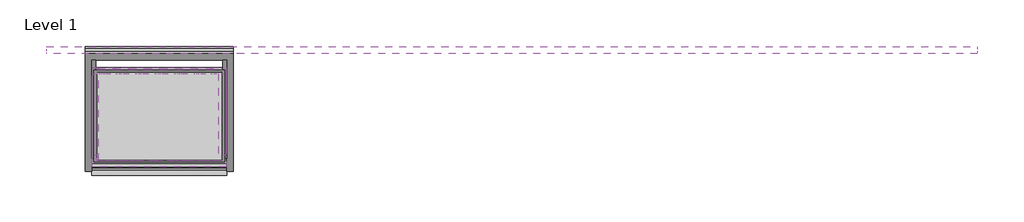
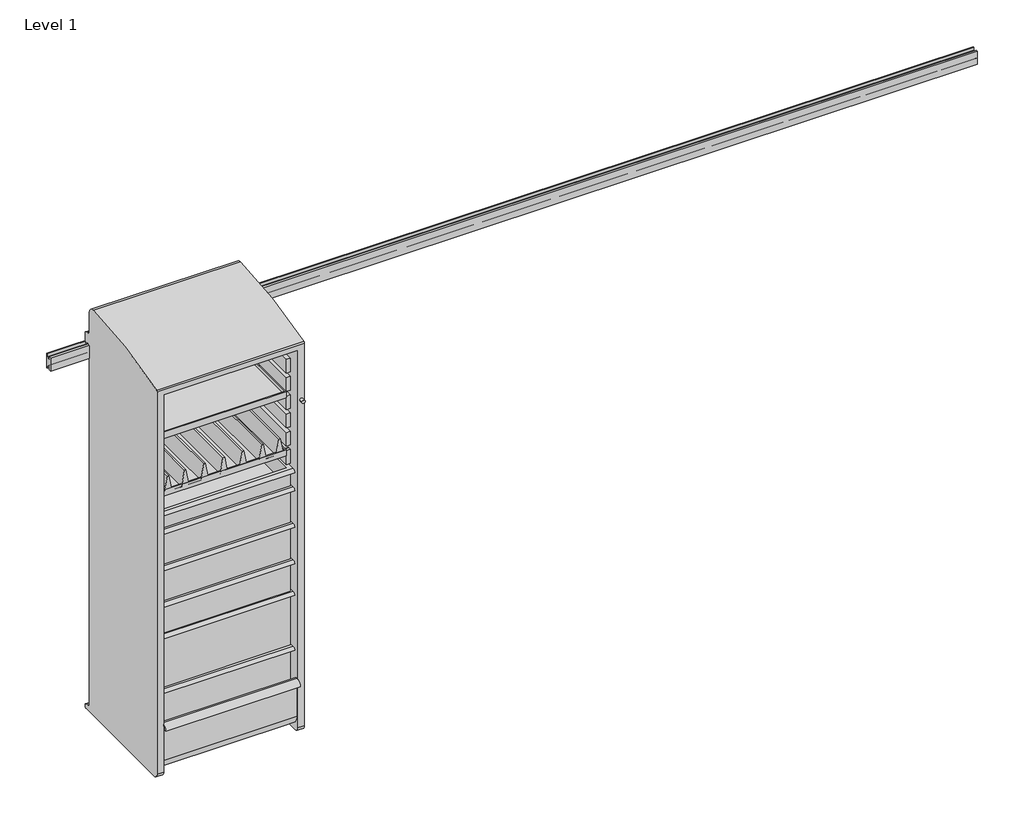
# One storey: 11 furniture elements.
"""IFC4 building model written with IfcOpenShell, lengths in millimetres."""

from ifc_helpers import new_model, si_unit, origin, place, context, project, spatial, transform, mapped, element, save
from components import furniture_98393e33, furniture_dc32c65e, furniture_d4a76fa6, furniture_ac9ddba1, a_3_75e6b637, b_6_415e5fe2, b_6_6b6d093e, b_6_5c61f839, c_9_eb0a6738, standard_144w_a9847ba4

model = new_model("IFC4")

# Units and contexts
model_context = context("Model", 3, world=origin())
ifc_project = project(units=[si_unit("LENGTHUNIT", "METRE", prefix="MILLI")], contexts=[model_context])

# Site, building, storey
site = spatial("IfcSite", under=ifc_project)
building = spatial("IfcBuilding", under=site)
storey = spatial("IfcBuildingStorey", under=building, Name="Level 1", Elevation=0.0)

# Furniture
placement = place(None, origin())
furniture_shape = furniture_98393e33(model_context)
element("IfcFurniture", 1, ObjectType="HermanMiller_CoStruc_CO203_CTrayShelf : 14\"D x 20\"W", at=placement, inside=storey, context=model_context, shape_type="MappedRepresentation", body=[
    mapped(furniture_shape, transform((442.9685649, -269.1460716, 0.0), x_axis=(1.0, 0.0, 0.0), y_axis=(0.0, 1.0, 0.0), z_axis=(0.0, 0.0, 1.0))),
])
furniture_2_shape = furniture_dc32c65e(model_context)
element("IfcFurniture", 2, ObjectType="HermanMiller_CoStruc_CO203_CTrayShelf : 14\"D x 20\"W", at=placement, inside=storey, context=model_context, shape_type="MappedRepresentation", body=[
    mapped(furniture_2_shape, transform((442.9685649, -269.1460716, 0.0), x_axis=(1.0, 0.0, 0.0), y_axis=(0.0, 1.0, 0.0), z_axis=(0.0, 0.0, 1.0))),
])
furniture_3_shape = furniture_d4a76fa6(model_context)
element("IfcFurniture", 3, ObjectType="HermanMiller_CoStruc_CO242_Subdivider Vane : 2 5/8\"Hx13 3/4\"D x 18 1/2\"W", at=placement, inside=storey, context=model_context, shape_type="MappedRepresentation", body=[
    mapped(furniture_3_shape, transform((439.4976166, -278.2900716, 0.0), x_axis=(1.0, 0.0, 0.0), y_axis=(0.0, 1.0, 0.0), z_axis=(0.0, 0.0, 1.0))),
])
furniture_4_shape = furniture_ac9ddba1(model_context)
element("IfcFurniture", 4, ObjectType="HermanMiller_CoStruc_CO561_LockerWithTambourDoor : 66\"H x 20\"D x 22\"W Wlock", at=placement, inside=storey, context=model_context, shape_type="MappedRepresentation", body=[
    mapped(furniture_4_shape, transform((442.9125, -246.0625, 0.0), x_axis=(1.0, 0.0, 0.0), y_axis=(0.0, 1.0, 0.0), z_axis=(0.0, 0.0, 1.0))),
])
a_3_shape = a_3_75e6b637(model_context)
element("IfcFurniture", 5, ObjectType="HermanMiller_CoStruc_CO207_Drawer : A - 3", at=placement, inside=storey, context=model_context, shape_type="MappedRepresentation", body=[
    mapped(a_3_shape, transform((442.9012166, -278.6456716, 0.0), x_axis=(1.0, 0.0, 0.0), y_axis=(0.0, 1.0, 0.0), z_axis=(0.0, 0.0, 1.0))),
])
b_6_shape = b_6_415e5fe2(model_context)
element("IfcFurniture", 6, ObjectType="HermanMiller_CoStruc_CO207_Drawer : B - 6", at=placement, inside=storey, context=model_context, shape_type="MappedRepresentation", body=[
    mapped(b_6_shape, transform((442.9012166, -278.6456716, 0.0), x_axis=(1.0, 0.0, 0.0), y_axis=(0.0, 1.0, 0.0), z_axis=(0.0, 0.0, 1.0))),
])
b_6_2_shape = b_6_6b6d093e(model_context)
element("IfcFurniture", 7, ObjectType="HermanMiller_CoStruc_CO207_Drawer : B - 6", at=placement, inside=storey, context=model_context, shape_type="MappedRepresentation", body=[
    mapped(b_6_2_shape, transform((442.9012166, -278.6456716, 0.0), x_axis=(1.0, 0.0, 0.0), y_axis=(0.0, 1.0, 0.0), z_axis=(0.0, 0.0, 1.0))),
])
b_6_3_shape = b_6_5c61f839(model_context)
element("IfcFurniture", 8, ObjectType="HermanMiller_CoStruc_CO207_Drawer : B - 6", at=placement, inside=storey, context=model_context, shape_type="MappedRepresentation", body=[
    mapped(b_6_3_shape, transform((442.9012166, -278.6456716, 0.0), x_axis=(1.0, 0.0, 0.0), y_axis=(0.0, 1.0, 0.0), z_axis=(0.0, 0.0, 1.0))),
])
c_9_shape = c_9_eb0a6738(model_context)
element("IfcFurniture", 9, ObjectType="HermanMiller_CoStruc_CO207_Drawer : C - 9", at=placement, inside=storey, context=model_context, shape_type="MappedRepresentation", body=[
    mapped(c_9_shape, transform((442.9012166, -278.6456716, 76.2), x_axis=(1.0, 0.0, 0.0), y_axis=(0.0, 1.0, 0.0), z_axis=(0.0, 0.0, 1.0))),
])
element("IfcFurniture", 10, ObjectType="HermanMiller_CoStruc_CO207_Drawer : C - 9", at=placement, inside=storey, context=model_context, shape_type="MappedRepresentation", body=[
    mapped(c_9_shape, transform((442.9012166, -278.6456716, 304.8), x_axis=(1.0, 0.0, 0.0), y_axis=(0.0, 1.0, 0.0), z_axis=(0.0, 0.0, 1.0))),
])
standard_144w_shape = standard_144w_a9847ba4(model_context)
element("IfcFurniture", 11, ObjectType="HermanMiller_CoStruc_CO282_StandardRail : Standard 144W", at=placement, inside=storey, context=model_context, shape_type="MappedRepresentation", body=[
    mapped(standard_144w_shape, transform((1896.1205525, 0.0, 0.0), x_axis=(1.0, 0.0, 0.0), y_axis=(0.0, 1.0, 0.0), z_axis=(0.0, 0.0, 1.0))),
])

save(model, "model.ifc")
